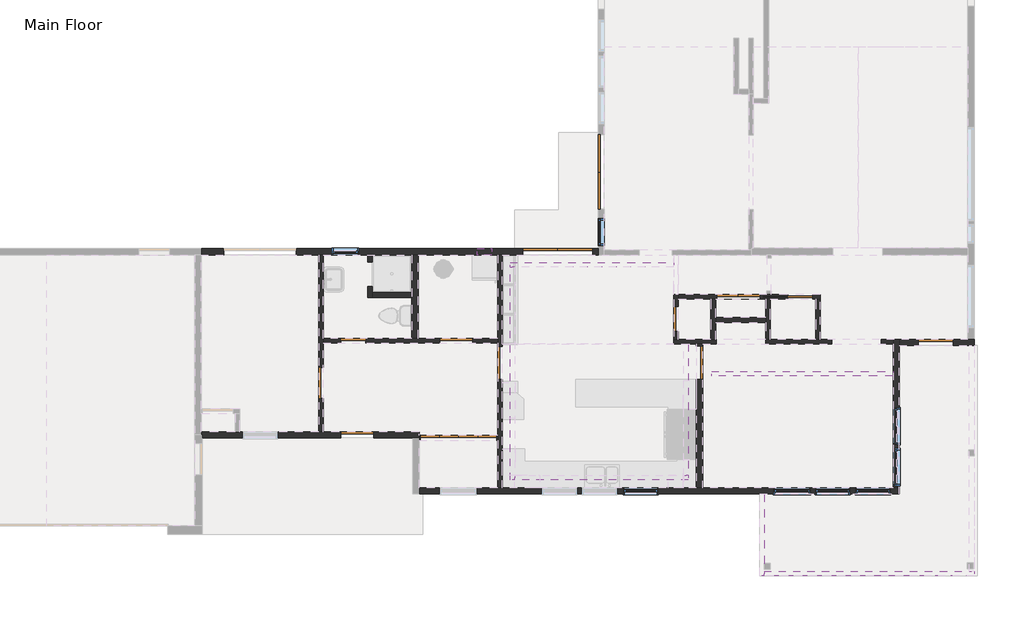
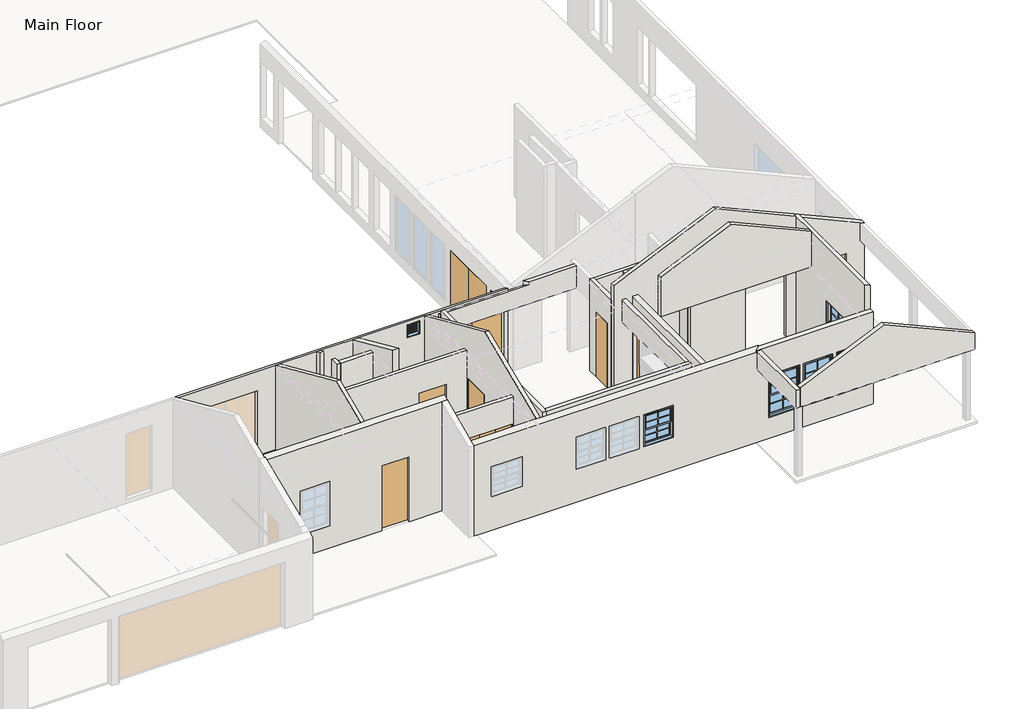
# One storey, part 2 of 7: 28 walls, 13 doors, 9 windows.
"""IFC4 building model written with IfcOpenShell, lengths in millimetres."""

from ifc_helpers import new_model, si_unit, frame, origin, origin_with_axes, place, context, project, spatial, polyline, outline, extrude, faceted_brep, transform, mapped, element, save
from components import door_783c2eb5, door_aef79686, door_b2eef15f, door_e2299fe2, door_f61abd0f, door_ba797397, door_46b09886, door_8554c7b2, door_841b6bda, door_7fdb5e2d, door_cbdf6a67, door_5ce24313, door_8a18af58, default_1_89811e44, default_1_4d738490, default_1_b5ca020e, default_1_04235336, default_1_7922284d, default_1_43741756

model = new_model("IFC4")

# Units and contexts
model_context = context("Model", 3, world=origin())
ifc_project = project(units=[si_unit("LENGTHUNIT", "METRE", prefix="MILLI")], contexts=[model_context])

# Site, building, storey
site = spatial("IfcSite", under=ifc_project)
building = spatial("IfcBuilding", under=site)
storey = spatial("IfcBuildingStorey", under=building, Name="Main Floor", Elevation=0.0)

# Doors
placement = place(None, origin())
door_shape = door_783c2eb5(model_context)
element("IfcDoor", 1, ObjectType="Planitar - Single Pocket Door : 2'-0\" x 6'-8\"", at=placement, inside=storey, context=model_context, shape_type="MappedRepresentation", body=[
    mapped(door_shape, transform((12201.8159008, -4509.0747068, 0.0), x_axis=(-1.0, 0.0, 0.0), y_axis=(0.0, -1.0, 0.0), z_axis=(0.0, 0.0, 1.0))),
])
door_2_shape = door_aef79686(model_context)
element("IfcDoor", 2, ObjectType="Planitar - Single Door_Flush Panel : 2'-0\" x 6'-8\"", at=placement, inside=storey, context=model_context, shape_type="MappedRepresentation", body=[
    mapped(door_2_shape, transform((1232.2941008, -5588.5747068, 0.0), x_axis=(1.0, 0.0, 0.0), y_axis=(0.0, 1.0, 0.0), z_axis=(0.0, 0.0, 1.0))),
])
door_3_shape = door_b2eef15f(model_context)
element("IfcDoor", 3, ObjectType="Planitar - Single Door_Flush Panel : 2'-0\" x 6'-8\"", at=placement, inside=storey, context=model_context, shape_type="MappedRepresentation", body=[
    mapped(door_3_shape, transform((9153.3343008, -5053.7462068, 0.0), x_axis=(0.0, -1.0, 0.0), y_axis=(1.0, 0.0, 0.0), z_axis=(0.0, 0.0, 1.0))),
])
door_4_shape = door_e2299fe2(model_context)
element("IfcDoor", 4, ObjectType="Planitar - Single Door_Flush Panel : 2'-10\" x 6'-8\"", at=placement, inside=storey, context=model_context, shape_type="MappedRepresentation", body=[
    mapped(door_4_shape, transform((15529.5496008, -5633.0247068, 0.0), x_axis=(1.0, 0.0, 0.0), y_axis=(0.0, 1.0, 0.0), z_axis=(0.0, 0.0, 1.0))),
])
door_5_shape = door_f61abd0f(model_context)
element("IfcDoor", 5, ObjectType="Planitar - Single Door_Flush Panel : 2'-6\" x 6'-8\"", at=placement, inside=storey, context=model_context, shape_type="MappedRepresentation", body=[
    mapped(door_5_shape, transform((441.1343008, -6625.8571068, 0.0), x_axis=(0.0, -1.0, 0.0), y_axis=(1.0, 0.0, 0.0), z_axis=(0.0, 0.0, 1.0))),
])
door_6_shape = door_ba797397(model_context)
element("IfcDoor", 6, ObjectType="Planitar - Single Door_Flush Panel : 2'-8\" x 6'-8\"", at=placement, inside=storey, context=model_context, shape_type="MappedRepresentation", body=[
    mapped(door_6_shape, transform((3760.8635008, -5588.5747068, 0.0), x_axis=(-1.0, 0.0, 0.0), y_axis=(0.0, -1.0, 0.0), z_axis=(0.0, 0.0, 1.0))),
])
door_7_shape = door_46b09886(model_context)
element("IfcDoor", 7, ObjectType="Planitar - Single Door_Flush Panel : 2'-8\" x 6'-8\"", at=placement, inside=storey, context=model_context, shape_type="MappedRepresentation", body=[
    mapped(door_7_shape, transform((4835.3343008, -6132.5599068, 0.0), x_axis=(0.0, 1.0, 0.0), y_axis=(-1.0, 0.0, 0.0), z_axis=(0.0, 0.0, 1.0))),
])
door_8_shape = door_8554c7b2(model_context)
element("IfcDoor", 8, ObjectType="Planitar - Single Door_Flush Panel : 2'-8\" x 6'-8\"", at=placement, inside=storey, context=model_context, shape_type="MappedRepresentation", body=[
    mapped(door_8_shape, transform((9731.1843008, -6127.8591068, 0.0), x_axis=(0.0, 1.0, 0.0), y_axis=(-1.0, 0.0, 0.0), z_axis=(0.0, 0.0, 1.0))),
])
door_9_shape = door_841b6bda(model_context)
element("IfcDoor", 9, ObjectType="Planitar - Single Door_Flush Panel : 2'-8\" x 6'-8\"", at=placement, inside=storey, context=model_context, shape_type="MappedRepresentation", body=[
    mapped(door_9_shape, transform((1332.2984008, -7899.9747068, 0.0), x_axis=(-1.0, 0.0, 0.0), y_axis=(0.0, -1.0, 0.0), z_axis=(0.0, 0.0, 1.0))),
])
door_10_shape = door_7fdb5e2d(model_context)
element("IfcDoor", 10, ObjectType="Planitar - Double Door_Flush Panel : 3'-6\" x 6'-8\"", at=placement, inside=storey, context=model_context, shape_type="MappedRepresentation", body=[
    mapped(door_10_shape, transform((10683.3502008, -4509.0747068, 863.6), x_axis=(1.0, 0.0, 0.0), y_axis=(0.0, 1.0, 0.0), z_axis=(0.0, 0.0, 1.0))),
])
door_11_shape = door_cbdf6a67(model_context)
element("IfcDoor", 11, ObjectType="Planitar - Double Door_Flush Panel : 5'-8\" x 6'-8\"", at=placement, inside=storey, context=model_context, shape_type="MappedRepresentation", body=[
    mapped(door_11_shape, transform((6251.3843008, -3404.1747068, 0.0), x_axis=(1.0, 0.0, 0.0), y_axis=(0.0, 1.0, 0.0), z_axis=(0.0, 0.0, 1.0))),
])
door_12_shape = door_5ce24313(model_context)
element("IfcDoor", 12, ObjectType="Planitar - Double Door_Flush Panel : 6'-0\" x 6'-8\"", at=placement, inside=storey, context=model_context, shape_type="MappedRepresentation", body=[
    mapped(door_12_shape, transform((7318.1843008, -1445.3325068, 0.0), x_axis=(0.0, 1.0, 0.0), y_axis=(-1.0, 0.0, 0.0), z_axis=(0.0, 0.0, 1.0))),
])
door_13_shape = door_8a18af58(model_context)
element("IfcDoor", 13, ObjectType="Planitar - Bifold Door : 6'-2\" x 6'-8\"", at=placement, inside=storey, context=model_context, shape_type="MappedRepresentation", body=[
    mapped(door_13_shape, transform((3816.2711008, -7976.1747068, 0.0), x_axis=(1.0, 0.0, 0.0), y_axis=(0.0, 1.0, 0.0), z_axis=(0.0, 0.0, 1.0))),
])

# Walls
element("IfcWall", 14, ObjectType="Planitar - Generic 6\"", at=placement, inside=storey, context=model_context, shape_type="Brep", body=[
    faceted_brep([(-2473.5156992, -7976.1747068, 0.0), (925.8984008, -7976.1747068, 0.0), (925.8984008, -7976.1747068, 2032.0), (1738.6984008, -7976.1747068, 2032.0), (1738.6984008, -7976.1747068, 0.0), (2695.3843008, -7976.1747068, 0.0), (2847.7843008, -7976.1747068, 0.0), (2847.7843008, -7976.1747068, 3412.099784), (2695.3843008, -7976.1747068, 3412.099784), (-2473.5156992, -7976.1747068, 3412.099784), (-619.1799992, -7976.1747068, 2082.8), (-619.1799992, -7976.1747068, 711.2), (-1482.7799992, -7976.1747068, 711.2), (-1482.7799992, -7976.1747068, 2082.8), (925.8984008, -7823.7747068, 2032.0), (925.8984008, -7823.7747068, 0.0), (498.2843008, -7823.7747068, 0.0), (383.9843008, -7823.7747068, 0.0), (-1552.7656992, -7823.7747068, 0.0), (-1667.0656992, -7823.7747068, 0.0), (-2498.9156992, -7823.7747068, 0.0), (-2498.9156992, -7823.7747068, 3477.0224512), (383.9843008, -7823.7747068, 3477.0224512), (498.2843008, -7823.7747068, 3477.0224512), (2847.7843008, -7823.7747068, 3477.0224512), (2847.7843008, -7823.7747068, 0.0), (1738.6984008, -7823.7747068, 0.0), (1738.6984008, -7823.7747068, 2032.0), (-619.1799992, -7823.7747068, 2082.8), (-1482.7799992, -7823.7747068, 2082.8), (-1482.7799992, -7823.7747068, 711.2), (-619.1799992, -7823.7747068, 711.2), (2847.7843008, -7919.0247068, 0.0), (-2473.5156992, -7899.9747068, 0.0), (-2498.9156992, -7899.9747068, 0.0), (-2473.5156992, -7899.9747068, 3444.5611176), (-2498.9156992, -7899.9747068, 3444.5611176)], [[[0, 1, 2, 3, 4, 5, 6, 7, 8, 9], [10, 11, 12, 13]], [[14, 15, 16, 17, 18, 19, 20, 21, 22, 23, 24, 25, 26, 27], [28, 29, 30, 31]], [[26, 25, 32, 6, 5, 4]], [[20, 19, 18, 17, 16, 15, 1, 0, 33, 34]], [[7, 6, 32, 25, 24]], [[2, 1, 15, 14]], [[3, 2, 14, 27]], [[4, 3, 27, 26]], [[11, 10, 28, 31]], [[12, 11, 31, 30]], [[13, 12, 30, 29]], [[10, 13, 29, 28]], [[0, 9, 35, 33]], [[35, 36, 34, 33]], [[36, 21, 20, 34]], [[9, 8, 7, 24, 23, 22, 21, 36, 35]]]),
])
element("IfcWall", 15, ObjectType="Planitar - Generic 6\"", at=placement, inside=storey, context=model_context, shape_type="Brep", body=[
    faceted_brep([(2847.7843008, -9354.1247068, 0.0), (14633.3843008, -9354.1247068, 0.0), (14633.3843008, -9354.1247068, 2870.2), (11182.2739273, -9354.1247068, 2870.2), (11182.2739273, -9354.1247068, 2825.0906686), (2847.7843008, -9354.1247068, 2825.0906686), (4269.5721008, -9354.1247068, 1981.2), (4269.5721008, -9354.1247068, 1066.8), (3355.1721008, -9354.1247068, 1066.8), (3355.1721008, -9354.1247068, 1981.2), (6727.7617008, -9354.1247068, 2032.0), (6727.7617008, -9354.1247068, 1041.4), (5864.1617008, -9354.1247068, 1041.4), (5864.1617008, -9354.1247068, 2032.0), (7710.1001008, -9354.1247068, 2032.0), (7710.1001008, -9354.1247068, 1041.4), (6846.5001008, -9354.1247068, 1041.4), (6846.5001008, -9354.1247068, 2032.0), (8719.9261008, -9354.1247068, 2032.0), (8719.9261008, -9354.1247068, 1041.4), (7856.3261008, -9354.1247068, 1041.4), (7856.3261008, -9354.1247068, 2032.0), (12459.6043008, -9354.1247068, 1981.2), (12459.6043008, -9354.1247068, 660.4), (11545.2043008, -9354.1247068, 660.4), (11545.2043008, -9354.1247068, 1981.2), (13429.5299008, -9354.1247068, 1981.2), (13429.5299008, -9354.1247068, 660.4), (12565.9299008, -9354.1247068, 660.4), (12565.9299008, -9354.1247068, 1981.2), (14420.9931008, -9354.1247068, 1981.2), (14420.9931008, -9354.1247068, 660.4), (13557.3931008, -9354.1247068, 660.4), (13557.3931008, -9354.1247068, 1981.2), (2847.7843008, -9201.7247068, 0.0), (2847.7843008, -9201.7247068, 2890.0133357), (4778.1843008, -9201.7247068, 2890.0133357), (4892.4843008, -9201.7247068, 2890.0133357), (11329.146334, -9201.7247068, 2890.0133357), (11329.146334, -9201.7247068, 2870.2), (14633.3843008, -9201.7247068, 2870.2), (14633.3843008, -9201.7247068, 0.0), (14480.9843008, -9201.7247068, 0.0), (9813.7343008, -9201.7247068, 0.0), (9648.6343008, -9201.7247068, 0.0), (4892.4843008, -9201.7247068, 0.0), (4778.1843008, -9201.7247068, 0.0), (4269.5721008, -9201.7247068, 1981.2), (3355.1721008, -9201.7247068, 1981.2), (3355.1721008, -9201.7247068, 1066.8), (4269.5721008, -9201.7247068, 1066.8), (6727.7617008, -9201.7247068, 2032.0), (5864.1617008, -9201.7247068, 2032.0), (5864.1617008, -9201.7247068, 1041.4), (6727.7617008, -9201.7247068, 1041.4), (7710.1001008, -9201.7247068, 2032.0), (6846.5001008, -9201.7247068, 2032.0), (6846.5001008, -9201.7247068, 1041.4), (7710.1001008, -9201.7247068, 1041.4), (8719.9261008, -9201.7247068, 2032.0), (7856.3261008, -9201.7247068, 2032.0), (7856.3261008, -9201.7247068, 1041.4), (8719.9261008, -9201.7247068, 1041.4), (12459.6043008, -9201.7247068, 1981.2), (11545.2043008, -9201.7247068, 1981.2), (11545.2043008, -9201.7247068, 660.4), (12459.6043008, -9201.7247068, 660.4), (13429.5299008, -9201.7247068, 1981.2), (12565.9299008, -9201.7247068, 1981.2), (12565.9299008, -9201.7247068, 660.4), (13429.5299008, -9201.7247068, 660.4), (14420.9931008, -9201.7247068, 1981.2), (13557.3931008, -9201.7247068, 1981.2), (13557.3931008, -9201.7247068, 660.4), (14420.9931008, -9201.7247068, 660.4), (11284.3232786, -9248.2346932, 2870.2)], [[[0, 1, 2, 3, 4, 5], [6, 7, 8, 9], [10, 11, 12, 13], [14, 15, 16, 17], [18, 19, 20, 21], [22, 23, 24, 25], [26, 27, 28, 29], [30, 31, 32, 33]], [[34, 35, 36, 37, 38, 39, 40, 41, 42, 43, 44, 45, 46], [47, 48, 49, 50], [51, 52, 53, 54], [55, 56, 57, 58], [59, 60, 61, 62], [63, 64, 65, 66], [67, 68, 69, 70], [71, 72, 73, 74]], [[1, 0, 34, 46, 45, 44, 43, 42, 41]], [[0, 5, 35, 34]], [[2, 1, 41, 40]], [[7, 6, 47, 50]], [[8, 7, 50, 49]], [[9, 8, 49, 48]], [[6, 9, 48, 47]], [[11, 10, 51, 54]], [[12, 11, 54, 53]], [[13, 12, 53, 52]], [[10, 13, 52, 51]], [[15, 14, 55, 58]], [[16, 15, 58, 57]], [[17, 16, 57, 56]], [[14, 17, 56, 55]], [[19, 18, 59, 62]], [[20, 19, 62, 61]], [[21, 20, 61, 60]], [[18, 21, 60, 59]], [[23, 22, 63, 66]], [[24, 23, 66, 65]], [[25, 24, 65, 64]], [[22, 25, 64, 63]], [[27, 26, 67, 70]], [[28, 27, 70, 69]], [[29, 28, 69, 68]], [[26, 29, 68, 67]], [[31, 30, 71, 74]], [[32, 31, 74, 73]], [[33, 32, 73, 72]], [[30, 33, 72, 71]], [[3, 2, 40, 39, 75]], [[3, 75, 4]], [[5, 4, 75, 38, 37, 36, 35]], [[75, 39, 38]]]),
])
element("IfcWall", 16, ObjectType="Planitar - Generic 6\"", at=placement, inside=storey, context=model_context, shape_type="Brep", body=[
    faceted_brep([(14633.3843008, -9201.7247068, 0.0), (14633.3843008, -5709.2247068, 0.0), (14633.3843008, -5556.8247068, 0.0), (14633.3843008, -5556.8247068, 3614.5677606), (14633.3843008, -5709.2247068, 3614.5677606), (14633.3843008, -9201.7247068, 3614.5677606), (14633.3843008, -9201.7247068, 2870.2), (14633.3843008, -8236.4848068, 1981.2), (14633.3843008, -8236.4848068, 660.4), (14633.3843008, -9150.8848068, 660.4), (14633.3843008, -9150.8848068, 1981.2), (14633.3843008, -7230.4128068, 1981.2), (14633.3843008, -7230.4128068, 660.4), (14633.3843008, -8144.8128068, 660.4), (14633.3843008, -8144.8128068, 1981.2), (14480.9843008, -9201.7247068, 0.0), (14480.9843008, -9201.7247068, 3682.4206122), (14480.9843008, -6457.7324755, 3682.4206122), (14480.9843008, -6343.4324755, 3682.4206122), (14480.9843008, -5671.1247068, 3682.4206122), (14480.9843008, -5556.8247068, 3682.4206122), (14480.9843008, -5556.8247068, 0.0), (14480.9843008, -5671.1247068, 0.0), (14480.9843008, -8236.4848068, 1981.2), (14480.9843008, -9150.8848068, 1981.2), (14480.9843008, -9150.8848068, 660.4), (14480.9843008, -8236.4848068, 660.4), (14480.9843008, -7230.4128068, 1981.2), (14480.9843008, -8144.8128068, 1981.2), (14480.9843008, -8144.8128068, 660.4), (14480.9843008, -7230.4128068, 660.4)], [[[0, 1, 2, 3, 4, 5, 6], [7, 8, 9, 10], [11, 12, 13, 14]], [[15, 16, 17, 18, 19, 20, 21, 22], [23, 24, 25, 26], [27, 28, 29, 30]], [[2, 1, 0, 15, 22, 21]], [[0, 6, 5, 16, 15]], [[3, 2, 21, 20]], [[8, 7, 23, 26]], [[9, 8, 26, 25]], [[10, 9, 25, 24]], [[7, 10, 24, 23]], [[12, 11, 27, 30]], [[13, 12, 30, 29]], [[14, 13, 29, 28]], [[11, 14, 28, 27]], [[5, 4, 3, 20, 19, 18, 17, 16]]]),
])
element("IfcWall", 17, ObjectType="Planitar - Generic 6\"", at=placement, inside=storey, context=model_context, shape_type="Brep", body=[
    faceted_brep([(15961.3496008, -5709.2247068, 2032.0), (15961.3496008, -5709.2247068, 0.0), (16468.5343008, -5709.2247068, 0.0), (16468.5343008, -5709.2247068, 2286.0), (16468.5343008, -5709.2247068, 2797.5063387), (16354.2343008, -5709.2247068, 2848.3959775), (14633.3843008, -5709.2247068, 3614.5677606), (14633.3843008, -5709.2247068, 0.0), (15097.7496008, -5709.2247068, 0.0), (15097.7496008, -5709.2247068, 2032.0), (16468.5343008, -5556.8247068, 0.0), (16316.1343008, -5556.8247068, 0.0), (15961.3496008, -5556.8247068, 0.0), (15961.3496008, -5556.8247068, 2032.0), (15097.7496008, -5556.8247068, 2032.0), (15097.7496008, -5556.8247068, 0.0), (14633.3843008, -5556.8247068, 0.0), (14633.3843008, -5556.8247068, 3614.5677606), (16316.1343008, -5556.8247068, 2865.3591904), (16468.5343008, -5556.8247068, 2797.5063387)], [[[0, 1, 2, 3, 4, 5, 6, 7, 8, 9]], [[10, 11, 12, 13, 14, 15, 16, 17, 18, 19]], [[8, 7, 16, 15]], [[2, 1, 12, 11, 10]], [[7, 6, 17, 16]], [[13, 12, 1, 0]], [[14, 13, 0, 9]], [[15, 14, 9, 8]], [[6, 5, 4, 19, 18, 17]], [[2, 10, 19, 4, 3]]]),
])
element("IfcWall", 18, ObjectType="Planitar - Generic 6\"", at=placement, inside=storey, context=model_context, shape_type="Brep", body=[
    faceted_brep([(7241.9843008, -3327.9747068, 2565.4), (7241.9843008, -3327.9747068, 0.0), (7114.9843008, -3327.9747068, 0.0), (7114.9843008, -3327.9747068, 2032.0), (5387.7843008, -3327.9747068, 2032.0), (5387.7843008, -3327.9747068, 0.0), (-159.9310992, -3327.9747068, 0.0), (-159.9310992, -3327.9747068, 2032.0), (-1937.9310992, -3327.9747068, 2032.0), (-1937.9310992, -3327.9747068, 0.0), (-2498.9156992, -3327.9747068, 0.0), (-2498.9156992, -3327.9747068, 2565.4), (709.6296008, -3327.9747068, 2032.0), (709.6296008, -3327.9747068, 1066.8), (1370.0296008, -3327.9747068, 1066.8), (1370.0296008, -3327.9747068, 2032.0), (4632.1343008, -3327.9747068, 2133.6), (4632.1343008, -3327.9747068, 2540.0), (4276.5343008, -3327.9747068, 2540.0), (4276.5343008, -3327.9747068, 2133.6), (7241.9843008, -3480.3747068, 0.0), (7241.9843008, -3480.3747068, 2565.4), (7241.9843008, -3480.3747068, 2633.2528516), (4892.4843008, -3480.3747068, 2633.2528516), (4778.1843008, -3480.3747068, 2633.2528516), (2828.7343008, -3480.3747068, 2633.2528516), (2663.6343008, -3480.3747068, 2633.2528516), (1698.4343008, -3480.3747068, 2633.2528516), (1584.1343008, -3480.3747068, 2633.2528516), (498.2843008, -3480.3747068, 2633.2528516), (383.9843008, -3480.3747068, 2633.2528516), (-2498.9156992, -3480.3747068, 2633.2528516), (-2498.9156992, -3480.3747068, 0.0), (-1937.9310992, -3480.3747068, 0.0), (-1937.9310992, -3480.3747068, 2032.0), (-159.9310992, -3480.3747068, 2032.0), (-159.9310992, -3480.3747068, 0.0), (383.9843008, -3480.3747068, 0.0), (498.2843008, -3480.3747068, 0.0), (1584.1343008, -3480.3747068, 0.0), (1698.4343008, -3480.3747068, 0.0), (2663.6343008, -3480.3747068, 0.0), (2828.7343008, -3480.3747068, 0.0), (4778.1843008, -3480.3747068, 0.0), (4892.4843008, -3480.3747068, 0.0), (5387.7843008, -3480.3747068, 0.0), (5387.7843008, -3480.3747068, 2032.0), (7114.9843008, -3480.3747068, 2032.0), (7114.9843008, -3480.3747068, 0.0), (709.6296008, -3480.3747068, 2032.0), (1370.0296008, -3480.3747068, 2032.0), (1370.0296008, -3480.3747068, 1066.8), (709.6296008, -3480.3747068, 1066.8), (4632.1343008, -3480.3747068, 2540.0), (4632.1343008, -3480.3747068, 2133.6), (4276.5343008, -3480.3747068, 2133.6), (4276.5343008, -3480.3747068, 2540.0)], [[[0, 1, 2, 3, 4, 5, 6, 7, 8, 9, 10, 11], [12, 13, 14, 15], [16, 17, 18, 19]], [[20, 21, 22, 23, 24, 25, 26, 27, 28, 29, 30, 31, 32, 33, 34, 35, 36, 37, 38, 39, 40, 41, 42, 43, 44, 45, 46, 47, 48], [49, 50, 51, 52], [53, 54, 55, 56]], [[1, 20, 48, 2]], [[36, 6, 5, 45, 44, 43, 42, 41, 40, 39, 38, 37]], [[9, 33, 32, 10]], [[1, 0, 22, 21, 20]], [[35, 7, 6, 36]], [[7, 35, 34, 8]], [[8, 34, 33, 9]], [[47, 3, 2, 48]], [[3, 47, 46, 4]], [[4, 46, 45, 5]], [[13, 12, 49, 52]], [[14, 13, 52, 51]], [[15, 14, 51, 50]], [[12, 15, 50, 49]], [[11, 10, 32, 31]], [[0, 11, 31, 30, 29, 28, 27, 26, 25, 24, 23, 22]], [[53, 17, 16, 54]], [[54, 16, 19, 55]], [[55, 19, 18, 56]], [[17, 53, 56, 18]]]),
])
element("IfcWall", 19, ObjectType="Planitar - Generic 4 1/2\"", at=placement, inside=storey, context=model_context, shape_type="Brep", body=[
    faceted_brep([(383.9843008, -7006.8571068, 2032.0), (383.9843008, -7006.8571068, 0.0), (383.9843008, -7823.7747068, 0.0), (383.9843008, -7823.7747068, 3477.0224512), (383.9843008, -6572.6284838, 4010.0129354), (383.9843008, -3480.3747068, 2633.2528516), (383.9843008, -3480.3747068, 0.0), (383.9843008, -6244.8571068, 0.0), (383.9843008, -6244.8571068, 2032.0), (498.2843008, -7823.7747068, 0.0), (498.2843008, -7006.8571068, 0.0), (498.2843008, -7006.8571068, 2032.0), (498.2843008, -6244.8571068, 2032.0), (498.2843008, -6244.8571068, 0.0), (498.2843008, -5645.7247068, 0.0), (498.2843008, -5531.4247068, 0.0), (498.2843008, -3480.3747068, 0.0), (498.2843008, -3480.3747068, 2633.2528516), (498.2843008, -6572.6284838, 4010.0129354), (498.2843008, -7823.7747068, 3477.0224512)], [[[0, 1, 2, 3, 4, 5, 6, 7, 8]], [[9, 10, 11, 12, 13, 14, 15, 16, 17, 18, 19]], [[7, 6, 16, 15, 14, 13]], [[2, 1, 10, 9]], [[3, 2, 9, 19]], [[6, 5, 17, 16]], [[11, 10, 1, 0]], [[12, 11, 0, 8]], [[13, 12, 8, 7]], [[5, 4, 18, 17]], [[4, 3, 19, 18]]]),
])
element("IfcWall", 20, ObjectType="Planitar - Generic 4 1/2\"", at=placement, inside=storey, context=model_context, shape_type="Brep", body=[
    faceted_brep([(4778.1843008, -8033.3247068, 2870.2), (2847.7843008, -8033.3247068, 2870.2), (2847.7843008, -8033.3247068, 0.0), (2876.4711008, -8033.3247068, 0.0), (2876.4711008, -8033.3247068, 2032.0), (4756.0711008, -8033.3247068, 2032.0), (4756.0711008, -8033.3247068, 0.0), (4778.1843008, -8033.3247068, 0.0), (2847.7843008, -7919.0247068, 2870.2), (4778.1843008, -7919.0247068, 2870.2), (4778.1843008, -7919.0247068, 0.0), (4756.0711008, -7919.0247068, 0.0), (4756.0711008, -7919.0247068, 2032.0), (2876.4711008, -7919.0247068, 2032.0), (2876.4711008, -7919.0247068, 0.0), (2847.7843008, -7919.0247068, 0.0), (2847.7843008, -7976.1747068, 0.0)], [[[0, 1, 2, 3, 4, 5, 6, 7]], [[8, 9, 10, 11, 12, 13, 14, 15]], [[2, 16, 15, 14, 3]], [[10, 7, 6, 11]], [[1, 0, 9, 8]], [[2, 1, 8, 15, 16]], [[0, 7, 10, 9]], [[5, 12, 11, 6]], [[12, 5, 4, 13]], [[13, 4, 3, 14]]]),
])
element("IfcWall", 21, ObjectType="Planitar - Generic 4 1/2\"", at=placement, inside=storey, context=model_context, shape_type="Brep", body=[
    faceted_brep([(4892.4843008, -5726.1599068, 2032.0), (4892.4843008, -5726.1599068, 0.0), (4892.4843008, -3480.3747068, 0.0), (4892.4843008, -3480.3747068, 2633.2528516), (4892.4843008, -6572.6284838, 4010.0129354), (4892.4843008, -9201.7247068, 2890.0133357), (4892.4843008, -9201.7247068, 0.0), (4892.4843008, -6538.9599068, 0.0), (4892.4843008, -6538.9599068, 2032.0), (4778.1843008, -3480.3747068, 0.0), (4778.1843008, -5531.4247068, 0.0), (4778.1843008, -5645.7247068, 0.0), (4778.1843008, -5726.1599068, 0.0), (4778.1843008, -5726.1599068, 2032.0), (4778.1843008, -6538.9599068, 2032.0), (4778.1843008, -6538.9599068, 0.0), (4778.1843008, -7919.0247068, 0.0), (4778.1843008, -8033.3247068, 0.0), (4778.1843008, -9201.7247068, 0.0), (4778.1843008, -9201.7247068, 2890.0133357), (4778.1843008, -6572.6284838, 4010.0129354), (4778.1843008, -3480.3747068, 2633.2528516)], [[[0, 1, 2, 3, 4, 5, 6, 7, 8]], [[9, 10, 11, 12, 13, 14, 15, 16, 17, 18, 19, 20, 21]], [[7, 6, 18, 17, 16, 15]], [[2, 1, 12, 11, 10, 9]], [[6, 5, 19, 18]], [[3, 2, 9, 21]], [[13, 12, 1, 0]], [[14, 13, 0, 8]], [[15, 14, 8, 7]], [[5, 4, 20, 19]], [[4, 3, 21, 20]]]),
])
element("IfcWall", 22, ObjectType="Planitar - Generic 4 1/2\"", at=placement, inside=storey, context=model_context, shape_type="Brep", body=[
    faceted_brep([(3354.4635008, -5531.4247068, 0.0), (2828.7343008, -5531.4247068, 0.0), (2663.6343008, -5531.4247068, 0.0), (1537.0941008, -5531.4247068, 0.0), (1537.0941008, -5531.4247068, 2032.0), (927.4941008, -5531.4247068, 2032.0), (927.4941008, -5531.4247068, 0.0), (498.2843008, -5531.4247068, 0.0), (498.2843008, -5531.4247068, 2870.2), (4778.1843008, -5531.4247068, 2870.2), (4778.1843008, -5531.4247068, 0.0), (4167.2635008, -5531.4247068, 0.0), (4167.2635008, -5531.4247068, 2032.0), (3354.4635008, -5531.4247068, 2032.0), (1537.0941008, -5645.7247068, 2032.0), (1537.0941008, -5645.7247068, 0.0), (3354.4635008, -5645.7247068, 0.0), (3354.4635008, -5645.7247068, 2032.0), (4167.2635008, -5645.7247068, 2032.0), (4167.2635008, -5645.7247068, 0.0), (4778.1843008, -5645.7247068, 0.0), (4778.1843008, -5645.7247068, 2870.2), (498.2843008, -5645.7247068, 2870.2), (498.2843008, -5645.7247068, 0.0), (927.4941008, -5645.7247068, 0.0), (927.4941008, -5645.7247068, 2032.0)], [[[0, 1, 2, 3, 4, 5, 6, 7, 8, 9, 10, 11, 12, 13]], [[14, 15, 16, 17, 18, 19, 20, 21, 22, 23, 24, 25]], [[11, 10, 20, 19]], [[24, 23, 7, 6]], [[16, 15, 3, 2, 1, 0]], [[9, 8, 22, 21]], [[8, 7, 23, 22]], [[10, 9, 21, 20]], [[17, 16, 0, 13]], [[18, 17, 13, 12]], [[19, 18, 12, 11]], [[4, 3, 15, 14]], [[5, 4, 14, 25]], [[6, 5, 25, 24]]]),
])
element("IfcWall", 23, ObjectType="Planitar - Generic 4 1/2\"", at=placement, inside=storey, context=model_context, shape_type="SweptSolid", body=[
    extrude(outline(polyline([(1698.4343008, -4407.4747068), (2663.6343008, -4407.4747068), (2663.6343008, -4521.7747068), (1698.4343008, -4521.7747068), (1698.4343008, -4407.4747068)])), origin_with_axes(), (0.0, 0.0, 1.0), 2870.2),
])
element("IfcWall", 24, ObjectType="Planitar - Generic 4 1/2\"", at=placement, inside=storey, context=model_context, shape_type="Brep", body=[
    faceted_brep([(1698.4343008, -4521.7747068, 0.0), (1698.4343008, -4407.4747068, 0.0), (1698.4343008, -4261.4247068, 0.0), (1698.4343008, -4261.4247068, 2870.2), (1698.4343008, -4407.4747068, 2870.2), (1698.4343008, -4521.7747068, 2870.2), (1584.1343008, -4521.7747068, 0.0), (1584.1343008, -4521.7747068, 2870.2), (1584.1343008, -4261.4247068, 2870.2), (1584.1343008, -4261.4247068, 0.0)], [[[0, 1, 2, 3, 4, 5]], [[6, 7, 8, 9]], [[2, 1, 0, 6, 9]], [[3, 2, 9, 8]], [[5, 4, 3, 8, 7]], [[0, 5, 7, 6]]]),
])
element("IfcWall", 25, ObjectType="Planitar - Generic 4 1/2\"", at=placement, inside=storey, context=model_context, shape_type="SweptSolid", body=[
    extrude(outline(polyline([(-3651.8247068, 0.0), (-3651.8247068, 2709.5873097), (-3480.3747068, 2633.2528516), (-3480.3747068, 0.0), (-3651.8247068, 0.0)])), frame((1584.1343008, 0.0, 0.0), z_axis=(1.0, 0.0, 0.0), x_axis=(0.0, 1.0, 0.0)), (0.0, 0.0, 1.0), 114.3),
])
element("IfcWall", 26, ObjectType="Planitar - Generic 6 1/2\"", at=placement, inside=storey, context=model_context, shape_type="Brep", body=[
    faceted_brep([(2663.6343008, -3480.3747068, 0.0), (2663.6343008, -4407.4747068, 0.0), (2663.6343008, -4521.7747068, 0.0), (2663.6343008, -5531.4247068, 0.0), (2663.6343008, -5531.4247068, 3546.4391466), (2663.6343008, -3480.3747068, 2633.2528516), (2828.7343008, -3480.3747068, 0.0), (2828.7343008, -3480.3747068, 2633.2528516), (2828.7343008, -5531.4247068, 3546.4391466), (2828.7343008, -5531.4247068, 0.0)], [[[0, 1, 2, 3, 4, 5]], [[6, 7, 8, 9]], [[3, 2, 1, 0, 6, 9]], [[0, 5, 7, 6]], [[4, 3, 9, 8]], [[5, 4, 8, 7]]]),
])
element("IfcWall", 27, ObjectType="Planitar - Generic 6 1/2\"", at=placement, inside=storey, context=model_context, shape_type="SweptSolid", body=[
    extrude(outline(polyline([(-5671.1247068, 0.0), (-5721.4591068, 0.0), (-5721.4591068, 2032.0), (-6534.2591068, 2032.0), (-6534.2591068, 0.0), (-9201.7247068, 0.0), (-9201.7247068, 2870.2), (-5671.1247068, 2870.2), (-5671.1247068, 0.0)])), frame((9648.6343008, 0.0, 0.0), z_axis=(1.0, 0.0, 0.0), x_axis=(0.0, 1.0, 0.0)), (0.0, 0.0, 1.0), 165.1),
])
element("IfcWall", 28, ObjectType="Planitar - Generic 4 1/2\"", at=placement, inside=storey, context=model_context, shape_type="Brep", body=[
    faceted_brep([(14480.9843008, -5556.8247068, 0.0), (14196.0906008, -5556.8247068, 0.0), (14196.0906008, -5556.8247068, 2032.0), (12976.8906008, -5556.8247068, 2032.0), (12976.8906008, -5556.8247068, 0.0), (12696.6343008, -5556.8247068, 0.0), (12582.3343008, -5556.8247068, 0.0), (11471.0843008, -5556.8247068, 0.0), (11356.7843008, -5556.8247068, 0.0), (11356.4222008, -5556.8247068, 0.0), (11356.4222008, -5556.8247068, 2032.0), (10137.2222008, -5556.8247068, 2032.0), (10137.2222008, -5556.8247068, 0.0), (10124.8843008, -5556.8247068, 0.0), (10010.5843008, -5556.8247068, 0.0), (9210.4843008, -5556.8247068, 0.0), (9096.1843008, -5556.8247068, 0.0), (9096.1843008, -5556.8247068, 2870.2), (9096.1843008, -5556.8247068, 3390.9430283), (12115.9189869, -5556.8247068, 4735.4155326), (14480.9843008, -5556.8247068, 3682.4206122), (14196.0906008, -5671.1247068, 2032.0), (14196.0906008, -5671.1247068, 0.0), (14480.9843008, -5671.1247068, 0.0), (14480.9843008, -5671.1247068, 3682.4206122), (12115.9189869, -5671.1247068, 4735.4155326), (9096.1843008, -5671.1247068, 3390.9430283), (9096.1843008, -5671.1247068, 0.0), (9648.6343008, -5671.1247068, 0.0), (9813.7343008, -5671.1247068, 0.0), (10137.2222008, -5671.1247068, 0.0), (10137.2222008, -5671.1247068, 2032.0), (11356.4222008, -5671.1247068, 2032.0), (11356.4222008, -5671.1247068, 0.0), (12976.8906008, -5671.1247068, 0.0), (12976.8906008, -5671.1247068, 2032.0)], [[[0, 1, 2, 3, 4, 5, 6, 7, 8, 9, 10, 11, 12, 13, 14, 15, 16, 17, 18, 19, 20]], [[21, 22, 23, 24, 25, 26, 27, 28, 29, 30, 31, 32, 33, 34, 35]], [[30, 29, 28, 27, 16, 15, 14, 13, 12]], [[34, 33, 9, 8, 7, 6, 5, 4]], [[23, 22, 1, 0]], [[0, 20, 24, 23]], [[18, 17, 16, 27, 26]], [[12, 11, 31, 30]], [[10, 9, 33, 32]], [[11, 10, 32, 31]], [[4, 3, 35, 34]], [[2, 1, 22, 21]], [[3, 2, 21, 35]], [[20, 19, 25, 24]], [[19, 18, 26, 25]]]),
])
element("IfcWall", 29, ObjectType="Planitar - Generic 4 1/2\"", at=placement, inside=storey, context=model_context, shape_type="Brep", body=[
    faceted_brep([(9210.4843008, -5556.8247068, 0.0), (9210.4843008, -5358.5462068, 0.0), (9210.4843008, -5358.5462068, 2032.0), (9210.4843008, -4748.9462068, 2032.0), (9210.4843008, -4748.9462068, 0.0), (9210.4843008, -4566.2247068, 0.0), (9210.4843008, -4451.9247068, 0.0), (9210.4843008, -4451.9247068, 2184.4), (9210.4843008, -4451.9247068, 2870.2), (9210.4843008, -4566.2247068, 2870.2), (9210.4843008, -5556.8247068, 2870.2), (9096.1843008, -5358.5462068, 2032.0), (9096.1843008, -5358.5462068, 0.0), (9096.1843008, -5556.8247068, 0.0), (9096.1843008, -5556.8247068, 2870.2), (9096.1843008, -4451.9247068, 2870.2), (9096.1843008, -4451.9247068, 2184.4), (9096.1843008, -4451.9247068, 0.0), (9096.1843008, -4748.9462068, 0.0), (9096.1843008, -4748.9462068, 2032.0)], [[[0, 1, 2, 3, 4, 5, 6, 7, 8, 9, 10]], [[11, 12, 13, 14, 15, 16, 17, 18, 19]], [[18, 17, 6, 5, 4]], [[13, 12, 1, 0]], [[10, 9, 8, 15, 14]], [[0, 10, 14, 13]], [[2, 1, 12, 11]], [[3, 2, 11, 19]], [[4, 3, 19, 18]], [[6, 17, 16, 15, 8, 7]]]),
])
element("IfcWall", 30, ObjectType="Planitar - Generic 4 1/2\"", at=placement, inside=storey, context=model_context, shape_type="Brep", body=[
    faceted_brep([(12696.6343008, -4566.2247068, 2870.2), (12582.3343008, -4566.2247068, 2870.2), (11471.0843008, -4566.2247068, 2870.2), (11356.7843008, -4566.2247068, 2870.2), (10124.8843008, -4566.2247068, 2870.2), (10010.5843008, -4566.2247068, 2870.2), (9210.4843008, -4566.2247068, 2870.2), (9210.4843008, -4566.2247068, 0.0), (10010.5843008, -4566.2247068, 0.0), (10124.8843008, -4566.2247068, 0.0), (11356.7843008, -4566.2247068, 0.0), (11471.0843008, -4566.2247068, 0.0), (11897.0159008, -4566.2247068, 0.0), (11897.0159008, -4566.2247068, 2032.0), (12506.6159008, -4566.2247068, 2032.0), (12506.6159008, -4566.2247068, 0.0), (12582.3343008, -4566.2247068, 0.0), (12696.6343008, -4566.2247068, 0.0), (11216.7502008, -4566.2247068, 2032.0), (11216.7502008, -4566.2247068, 863.6), (10149.9502008, -4566.2247068, 863.6), (10149.9502008, -4566.2247068, 2032.0), (9210.4843008, -4451.9247068, 2870.2), (11375.8343008, -4451.9247068, 2870.2), (11490.1343008, -4451.9247068, 2870.2), (12696.6343008, -4451.9247068, 2870.2), (12696.6343008, -4451.9247068, 0.0), (12506.6159008, -4451.9247068, 0.0), (12506.6159008, -4451.9247068, 2032.0), (11897.0159008, -4451.9247068, 2032.0), (11897.0159008, -4451.9247068, 0.0), (11490.1343008, -4451.9247068, 0.0), (11375.8343008, -4451.9247068, 0.0), (9210.4843008, -4451.9247068, 0.0), (11216.7502008, -4451.9247068, 863.6), (11216.7502008, -4451.9247068, 2032.0), (10149.9502008, -4451.9247068, 2032.0), (10149.9502008, -4451.9247068, 863.6), (11897.0159008, -4488.3997068, 0.0), (11287.4159008, -4488.3997068, 0.0), (11287.4159008, -4529.7497068, 0.0), (11897.0159008, -4529.7497068, 0.0), (11287.4159008, -4529.7497068, 2032.0), (11287.4159008, -4488.3997068, 2032.0), (11897.0159008, -4488.3997068, 2032.0), (11897.0159008, -4529.7497068, 2032.0)], [[[0, 1, 2, 3, 4, 5, 6, 7, 8, 9, 10, 11, 12, 13, 14, 15, 16, 17], [18, 19, 20, 21]], [[22, 23, 24, 25, 26, 27, 28, 29, 30, 31, 32, 33], [34, 35, 36, 37]], [[7, 33, 32, 31, 30, 38, 39, 40, 41, 12, 11, 10, 9, 8]], [[26, 17, 16, 15, 27]], [[6, 5, 4, 3, 2, 1, 0, 25, 24, 23, 22]], [[0, 17, 26, 25]], [[42, 43, 44, 29, 28, 14, 13, 45]], [[44, 43, 39, 38]], [[29, 44, 38, 30]], [[14, 28, 27, 15]], [[45, 13, 12, 41]], [[42, 45, 41, 40]], [[43, 42, 40, 39]], [[34, 19, 18, 35]], [[35, 18, 21, 36]], [[36, 21, 20, 37]], [[19, 34, 37, 20]], [[6, 22, 33, 7]]]),
])
element("IfcWall", 31, ObjectType="Planitar - Generic 4 1/2\"", at=placement, inside=storey, context=model_context, shape_type="SweptSolid", body=[
    extrude(outline(polyline([(12582.3343008, -5556.8247068), (12582.3343008, -4566.2247068), (12696.6343008, -4566.2247068), (12696.6343008, -5556.8247068), (12582.3343008, -5556.8247068)])), origin_with_axes(), (0.0, 0.0, 1.0), 2870.2),
])
element("IfcWall", 32, ObjectType="Planitar - Generic 4 1/2\"", at=placement, inside=storey, context=model_context, shape_type="Brep", body=[
    faceted_brep([(11356.7843008, -4566.2247068, 0.0), (11356.7843008, -5023.4247068, 0.0), (11356.7843008, -5137.7247068, 0.0), (11356.7843008, -5556.8247068, 0.0), (11356.7843008, -5556.8247068, 2870.2), (11356.7843008, -5137.7247068, 2870.2), (11356.7843008, -5023.4247068, 2870.2), (11356.7843008, -4566.2247068, 2870.2), (11471.0843008, -4566.2247068, 0.0), (11471.0843008, -4566.2247068, 2870.2), (11471.0843008, -5556.8247068, 2870.2), (11471.0843008, -5556.8247068, 0.0)], [[[0, 1, 2, 3, 4, 5, 6, 7]], [[8, 9, 10, 11]], [[3, 2, 1, 0, 8, 11]], [[7, 6, 5, 4, 10, 9]], [[4, 3, 11, 10]], [[0, 7, 9, 8]]]),
])
element("IfcWall", 33, ObjectType="Planitar - Generic 4 1/2\"", at=placement, inside=storey, context=model_context, shape_type="Brep", body=[
    faceted_brep([(10010.5843008, -4566.2247068, 0.0), (10010.5843008, -5556.8247068, 0.0), (10010.5843008, -5556.8247068, 2870.2), (10010.5843008, -4566.2247068, 2870.2), (10124.8843008, -4566.2247068, 0.0), (10124.8843008, -4566.2247068, 2870.2), (10124.8843008, -5023.4247068, 2870.2), (10124.8843008, -5137.7247068, 2870.2), (10124.8843008, -5556.8247068, 2870.2), (10124.8843008, -5556.8247068, 0.0), (10124.8843008, -5137.7247068, 0.0), (10124.8843008, -5023.4247068, 0.0)], [[[0, 1, 2, 3]], [[4, 5, 6, 7, 8, 9, 10, 11]], [[1, 0, 4, 11, 10, 9]], [[3, 2, 8, 7, 6, 5]], [[2, 1, 9, 8]], [[0, 3, 5, 4]]]),
])
element("IfcWall", 34, ObjectType="Planitar - Generic 4 1/2\"", at=placement, inside=storey, context=model_context, shape_type="SweptSolid", body=[
    extrude(outline(polyline([(11356.7843008, -5137.7247068), (10124.8843008, -5137.7247068), (10124.8843008, -5023.4247068), (11356.7843008, -5023.4247068), (11356.7843008, -5137.7247068)])), origin_with_axes(), (0.0, 0.0, 1.0), 2870.2),
])
element("IfcWall", 35, ObjectType="Planitar - Generic 4 1/2\"", at=placement, inside=storey, context=model_context, shape_type="Brep", body=[
    faceted_brep([(9096.1843008, -3670.8747068, 2184.4), (5082.9843008, -3670.8747068, 2184.4), (5082.9843008, -3670.8747068, 2718.0689162), (7585.086097, -3670.8747068, 2718.0689162), (7585.086097, -3670.8747068, 2870.2), (9096.1843008, -3670.8747068, 2870.2), (9096.1843008, -3785.1747068, 2184.4), (9096.1843008, -3785.1747068, 2870.2), (7699.386097, -3785.1747068, 2870.2), (7699.386097, -3785.1747068, 2768.9585549), (5082.9843008, -3785.1747068, 2768.9585549), (5082.9843008, -3785.1747068, 2184.4), (5197.2843008, -3785.1747068, 2184.4)], [[[0, 1, 2, 3, 4, 5]], [[6, 7, 8, 9, 10, 11, 12]], [[1, 0, 6, 12, 11]], [[0, 5, 7, 6]], [[2, 1, 11, 10]], [[5, 4, 8, 7]], [[8, 4, 3, 9]], [[3, 2, 10, 9]]]),
])
element("IfcWall", 36, ObjectType="Planitar - Generic 4 1/2\"", at=placement, inside=storey, context=model_context, shape_type="Brep", body=[
    faceted_brep([(5082.9843008, -3785.1747068, 2184.4), (5082.9843008, -9011.2247068, 2184.4), (5082.9843008, -9011.2247068, 2870.2), (5082.9843008, -3785.1747068, 2870.2), (5082.9843008, -3785.1747068, 2768.9585549), (5197.2843008, -3785.1747068, 2184.4), (5197.2843008, -3785.1747068, 2870.2), (5197.2843008, -8896.9247068, 2870.2), (5197.2843008, -9011.2247068, 2870.2), (5197.2843008, -9011.2247068, 2184.4), (5197.2843008, -8896.9247068, 2184.4)], [[[0, 1, 2, 3, 4]], [[5, 6, 7, 8, 9, 10]], [[1, 0, 5, 10, 9]], [[3, 2, 8, 7, 6]], [[0, 4, 3, 6, 5]], [[2, 1, 9, 8]]]),
])
element("IfcWall", 37, ObjectType="Planitar - Generic 4 1/2\"", at=placement, inside=storey, context=model_context, shape_type="Brep", body=[
    faceted_brep([(5197.2843008, -9011.2247068, 2184.4), (9458.1343008, -9011.2247068, 2184.4), (9458.1343008, -9011.2247068, 2870.2), (5197.2843008, -9011.2247068, 2870.2), (5197.2843008, -8896.9247068, 2184.4), (5197.2843008, -8896.9247068, 2870.2), (9343.8343008, -8896.9247068, 2870.2), (9458.1343008, -8896.9247068, 2870.2), (9458.1343008, -8896.9247068, 2184.4), (9343.8343008, -8896.9247068, 2184.4)], [[[0, 1, 2, 3]], [[4, 5, 6, 7, 8, 9]], [[1, 0, 4, 9, 8]], [[3, 2, 7, 6, 5]], [[0, 3, 5, 4]], [[2, 1, 8, 7]]]),
])
element("IfcWall", 38, ObjectType="Planitar - Generic 4 1/2\"", at=placement, inside=storey, context=model_context, shape_type="SweptSolid", body=[
    extrude(outline(polyline([(9458.1343008, -5671.1247068), (9458.1343008, -8896.9247068), (9343.8343008, -8896.9247068), (9343.8343008, -5671.1247068), (9458.1343008, -5671.1247068)])), frame((0.0, 0.0, 2184.4), z_axis=(0.0, 0.0, 1.0), x_axis=(1.0, 0.0, 0.0)), (0.0, 0.0, 1.0), 685.8),
])
element("IfcWall", 39, ObjectType="Planitar - Generic 4 1/2\"", at=placement, inside=storey, context=model_context, shape_type="SweptSolid", body=[
    extrude(outline(polyline([(2578.1, 10031.5120513), (2578.1, 14480.9843008), (3682.4206122, 14480.9843008), (4735.4155326, 12115.9189869), (3807.377773, 10031.5120513), (2578.1, 10031.5120513)])), frame((0.0, -6457.7324755, 0.0), z_axis=(0.0, 1.0, 0.0), x_axis=(0.0, 0.0, 1.0)), (0.0, 0.0, 1.0), 114.3),
])
element("IfcWall", 40, ObjectType="Planitar - Generic 4 1/2\"", at=placement, inside=storey, context=model_context, shape_type="Brep", body=[
    faceted_brep([(11204.3843008, -9354.1247068, 2286.0), (11204.3843008, -11367.0747068, 2286.0), (11204.3843008, -11367.0747068, 2844.8), (11204.3843008, -9354.1247068, 2844.8), (11318.6843008, -9354.1247068, 2286.0), (11318.6843008, -9354.1247068, 2844.8), (11318.6843008, -11367.0747068, 2844.8), (11318.6843008, -11367.0747068, 2286.0), (11318.6843008, -11252.7747068, 2286.0)], [[[0, 1, 2, 3]], [[4, 5, 6, 7, 8]], [[1, 0, 4, 8, 7]], [[3, 2, 6, 5]], [[0, 3, 5, 4]], [[2, 1, 7, 6]]]),
])
element("IfcWall", 41, ObjectType="Planitar - Generic 4 1/2\"", at=placement, inside=storey, context=model_context, shape_type="Brep", body=[
    faceted_brep([(11318.6843008, -11367.0747068, 2286.0), (16468.5343008, -11367.0747068, 2286.0), (16468.5343008, -11367.0747068, 2797.5063387), (13792.3189869, -11367.0747068, 3989.0341645), (11318.6843008, -11367.0747068, 2887.7010453), (11318.6843008, -11367.0747068, 2844.8), (11318.6843008, -11252.7747068, 2286.0), (11318.6843008, -11252.7747068, 2887.7010453), (13792.3189869, -11252.7747068, 3989.0341645), (16354.2343008, -11252.7747068, 2848.3959775), (16468.5343008, -11252.7747068, 2797.5063387), (16468.5343008, -11252.7747068, 2286.0), (16354.2343008, -11252.7747068, 2286.0)], [[[0, 1, 2, 3, 4, 5]], [[6, 7, 8, 9, 10, 11, 12]], [[0, 5, 4, 7, 6]], [[2, 1, 11, 10]], [[1, 0, 6, 12, 11]], [[3, 2, 10, 9, 8]], [[4, 3, 8, 7]]]),
])

# Windows
default_1_shape = default_1_89811e44(model_context)
element("IfcWindow", 42, ObjectType="Planitar-Fixed : Default 1", at=placement, inside=storey, context=model_context, shape_type="MappedRepresentation", body=[
    mapped(default_1_shape, transform((7331.1843008, -2921.7474068, -609.6), x_axis=(0.0, 1.0, 0.0), y_axis=(-1.0, 0.0, 0.0), z_axis=(0.0, 0.0, 1.0))),
])
default_1_2_shape = default_1_4d738490(model_context)
element("IfcWindow", 43, ObjectType="Planitar-Double-Hung-Single : Default 1", at=placement, inside=storey, context=model_context, shape_type="MappedRepresentation", body=[
    mapped(default_1_2_shape, transform((1039.8296008, -3404.1747068, 152.4), x_axis=(1.0, 0.0, 0.0), y_axis=(0.0, 1.0, 0.0), z_axis=(0.0, 0.0, 1.0))),
])
default_1_3_shape = default_1_b5ca020e(model_context)
element("IfcWindow", 44, ObjectType="Planitar-Double-Hung-Single : Default 1", at=placement, inside=storey, context=model_context, shape_type="MappedRepresentation", body=[
    mapped(default_1_3_shape, transform((8288.1261008, -9277.9247068, 127.0), x_axis=(-1.0, 0.0, 0.0), y_axis=(0.0, -1.0, 0.0), z_axis=(0.0, 0.0, 1.0))),
])
default_1_4_shape = default_1_04235336(model_context)
element("IfcWindow", 45, ObjectType="Planitar-Double-Hung-Single : Default 1", at=placement, inside=storey, context=model_context, shape_type="MappedRepresentation", body=[
    mapped(default_1_4_shape, transform((12002.4043008, -9277.9247068, -254.0), x_axis=(-1.0, 0.0, 0.0), y_axis=(0.0, -1.0, 0.0), z_axis=(0.0, 0.0, 1.0))),
])
element("IfcWindow", 46, ObjectType="Planitar-Double-Hung-Single : Default 1", at=placement, inside=storey, context=model_context, shape_type="MappedRepresentation", body=[
    mapped(default_1_4_shape, transform((14557.1843008, -8693.6848068, -254.0), x_axis=(0.0, -1.0, 0.0), y_axis=(1.0, 0.0, 0.0), z_axis=(0.0, 0.0, 1.0))),
])
element("IfcWindow", 47, ObjectType="Planitar-Double-Hung-Single : Default 1", at=placement, inside=storey, context=model_context, shape_type="MappedRepresentation", body=[
    mapped(default_1_4_shape, transform((14557.1843008, -7687.6128068, -254.0), x_axis=(0.0, -1.0, 0.0), y_axis=(1.0, 0.0, 0.0), z_axis=(0.0, 0.0, 1.0))),
])
default_1_5_shape = default_1_7922284d(model_context)
element("IfcWindow", 48, ObjectType="Planitar-Double-Hung-Single : Default 1", at=placement, inside=storey, context=model_context, shape_type="MappedRepresentation", body=[
    mapped(default_1_5_shape, transform((12997.7299008, -9277.9247068, -254.0), x_axis=(-1.0, 0.0, 0.0), y_axis=(0.0, -1.0, 0.0), z_axis=(0.0, 0.0, 1.0))),
])
element("IfcWindow", 49, ObjectType="Planitar-Double-Hung-Single : Default 1", at=placement, inside=storey, context=model_context, shape_type="MappedRepresentation", body=[
    mapped(default_1_5_shape, transform((13989.1931008, -9277.9247068, -254.0), x_axis=(-1.0, 0.0, 0.0), y_axis=(0.0, -1.0, 0.0), z_axis=(0.0, 0.0, 1.0))),
])
default_1_6_shape = default_1_43741756(model_context)
element("IfcWindow", 50, ObjectType="Planitar- Jalouise : Default 1", at=placement, inside=storey, context=model_context, shape_type="MappedRepresentation", body=[
    mapped(default_1_6_shape, transform((4454.3343008, -3397.8247068, 1219.2), x_axis=(1.0, 0.0, 0.0), y_axis=(0.0, 1.0, 0.0), z_axis=(0.0, 0.0, 1.0))),
])

save(model, "model.ifc")
